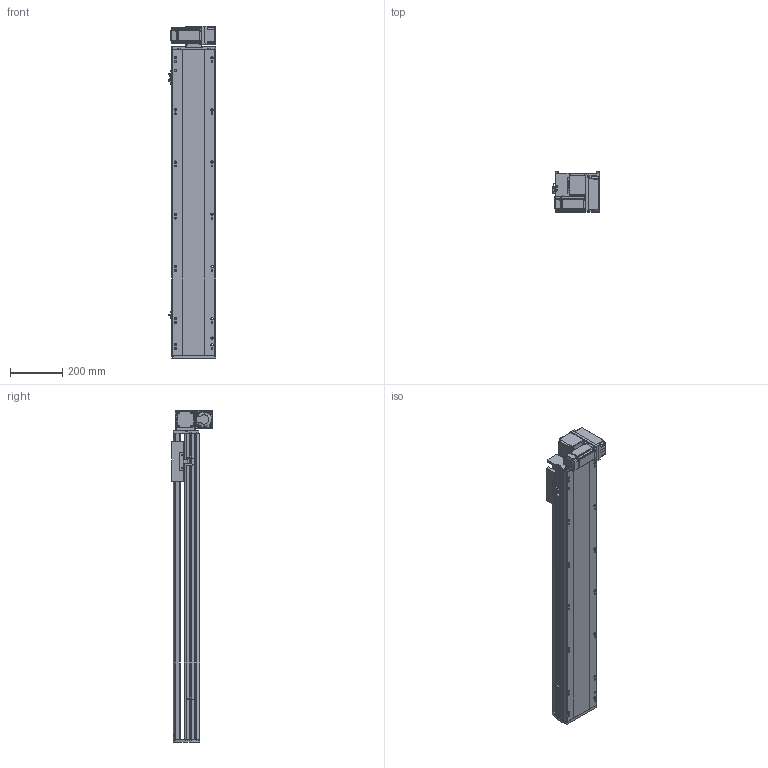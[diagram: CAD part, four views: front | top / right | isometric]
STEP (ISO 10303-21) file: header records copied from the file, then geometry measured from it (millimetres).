
FILE_DESCRIPTION (( 'STEP AP214' ), '1' );
FILE_NAME ('RTB17S-XX-900-RM-M40-C4.STEP', '2025-12-11T08:15:44', ( '' ), ( '' ), 'SwSTEP 2.0', 'SolidWorks 2018', '' );
FILE_SCHEMA (( 'AUTOMOTIVE_DESIGN' ));
Length unit declared in the file: millimetre
Products named in the file (14): RTB17S-L-007奻裔^RTB17S-XX-XX-RM-M40-C4; RTB14-L-005P--轴承塑胶压盖^RTB17S-RM-皮带座装配-400W_RTB17S-XX-XX-RM-M40-C4; RTB14-L-017P^RTB17S-RM-々湍釱蚾饜-400W_RTB17S-XX-XX-RM-M40-C4; RTB17S-L-014-T20--々湍釱^RTB17S-RM-々湍釱蚾饜-400W_RTB17S-XX-XX-RM-M40-C4; 400W侜督萇儂^RTB17S-XX-XX-RM-M40-C4; RTH13-BL-012覜茼え俋离^RTB17S-XX-XX-RM-M40-C4; RTB17-R-011菁釱^RTB17S-XX-XX-RM-M40-C4; RTB17S-L-004佪裝蹟譫蟀諉釱^RTB17S-XX-XX-RM-M40-C4; RTB17S-L-001耜醱啣^RTB17S-XX-XX-RM-M40-C4; RTB17S-RM-々湍釱蚾饜-400W^RTB17S-XX-XX-RM-M40-C4; RTB14-L-018P^RTB17S-RM-々湍釱蚾饜-400W_RTB17S-XX-XX-RM-M40-C4; RTB17S-XX-900-RM-M40-C4; RTB14-L-008-M20--萇儂啣^RTB17S-RM-々湍釱蚾饜-400W_RTB17S-XX-XX-RM-M40-C4; OMRON EE-SX672 传感器^RTB17S-XX-XX-RM-M40-C4
Assembly tree (16 placements, depth 3):
  RTB17S-XX-900-RM-M40-C4
    RTB17-R-011菁釱^RTB17S-XX-XX-RM-M40-C4
    RTB17S-L-007奻裔^RTB17S-XX-XX-RM-M40-C4
    OMRON EE-SX672 传感器^RTB17S-XX-XX-RM-M40-C4  x3
    RTB17S-L-001耜醱啣^RTB17S-XX-XX-RM-M40-C4
    400W侜督萇儂^RTB17S-XX-XX-RM-M40-C4
    RTB17S-L-004佪裝蹟譫蟀諉釱^RTB17S-XX-XX-RM-M40-C4
    RTH13-BL-012覜茼え俋离^RTB17S-XX-XX-RM-M40-C4
    RTB17S-RM-々湍釱蚾饜-400W^RTB17S-XX-XX-RM-M40-C4
      RTB17S-L-014-T20--々湍釱^RTB17S-RM-々湍釱蚾饜-400W_RTB17S-XX-XX-RM-M40-C4
      RTB14-L-005P--轴承塑胶压盖^RTB17S-RM-皮带座装配-400W_RTB17S-XX-XX-RM-M40-C4
      RTB14-L-008-M20--萇儂啣^RTB17S-RM-々湍釱蚾饜-400W_RTB17S-XX-XX-RM-M40-C4
      RTB14-L-017P^RTB17S-RM-々湍釱蚾饜-400W_RTB17S-XX-XX-RM-M40-C4  x2
      RTB14-L-018P^RTB17S-RM-々湍釱蚾饜-400W_RTB17S-XX-XX-RM-M40-C4
Bounding box: 183.5 x 156.5 x 1272.5 mm (x, y, z)
Volume: 11556255 mm3; surface area: 1410035 mm2
Topology: 15 solids, 15 shells, 2205 faces, 6087 edges, 3969 vertices
Faces by surface type: plane 1068, cylinder 689, bspline 301, cone 139, torus 8
Entity records: 62633 total; most frequent: CARTESIAN_POINT 17492, ORIENTED_EDGE 9018, DIRECTION 8396, EDGE_CURVE 4509, VERTEX_POINT 2957, AXIS2_PLACEMENT_3D 2887, VECTOR 2622, LINE 2622
